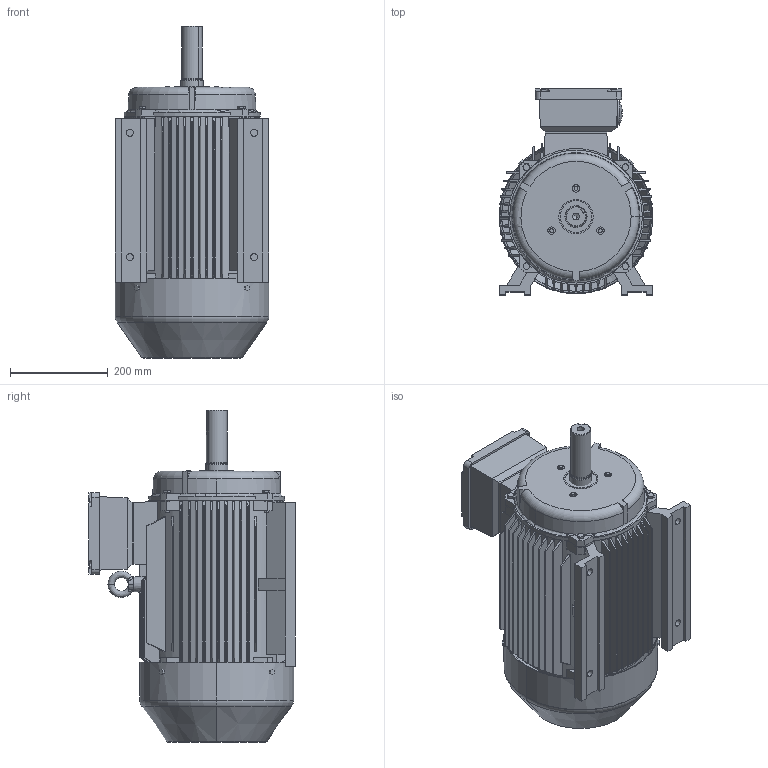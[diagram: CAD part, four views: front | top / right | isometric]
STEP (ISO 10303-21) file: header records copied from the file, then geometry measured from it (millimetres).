
FILE_DESCRIPTION (( 'STEP AP203' ), '1' );
FILE_NAME ('TE3-160L B3上.STEP', '2019-12-18T02:50:18', ( '微软用户' ), ( '微软中国' ), 'SwSTEP 2.0', 'SolidWorks 2012', '' );
FILE_SCHEMA (( 'CONFIG_CONTROL_DESIGN' ));
Products named in the file (12): TE3-160L B3奻; eyebolts gb_GB_FASTENER_SCREWS_FRS M12-N; hexagon head bolts--product grade c gb_GB_FASTENER_BOLT_HHBC M8X40-N; 5EJ.354.484GX160~180P24諉盄碟; hexagon head bolts-full thread gb_GB_FASTENER_BOLT_STBAB A M6X12-N; 8EJ.353.10053GX160~180P24諉盄碟裔; 8EJ.354.593Y2-160~180P24諉盄碟釱; hexagon head bolts--product grade c gb_GB_FASTENER_BOLT_HHBC M5X25-N; TE3-160 粣扥; YX3-160瑞欶; TE3-160-4,6,8傷裔; YX3-160L儂釱 B3奻
Assembly tree (20 placements, depth 3):
  TE3-160L B3奻
    YX3-160L儂釱 B3奻
    TE3-160-4,6,8傷裔
    YX3-160瑞欶
    TE3-160 粣扥
    hexagon head bolts--product grade c gb_GB_FASTENER_BOLT_HHBC M5X25-N  x3
    5EJ.354.484GX160~180P24諉盄碟
      8EJ.354.593Y2-160~180P24諉盄碟釱
      8EJ.353.10053GX160~180P24諉盄碟裔
      hexagon head bolts-full thread gb_GB_FASTENER_BOLT_STBAB A M6X12-N  x4
    hexagon head bolts--product grade c gb_GB_FASTENER_BOLT_HHBC M8X40-N  x5
    eyebolts gb_GB_FASTENER_SCREWS_FRS M12-N
Bounding box: 314 x 421 x 678 mm (x, y, z)
Volume: 27054485.4 mm3; surface area: 2033200.3 mm2
Topology: 19 solids, 20 shells, 1782 faces, 4405 edges, 2900 vertices
Faces by surface type: plane 1257, cylinder 245, cone 166, bspline 87, torus 25, sphere 2
Entity records: 115816 total; most frequent: CARTESIAN_POINT 77493, ORIENTED_EDGE 7846, DIRECTION 6876, EDGE_CURVE 3923, LINE 2776, VECTOR 2776, VERTEX_POINT 2606, AXIS2_PLACEMENT_3D 2050
